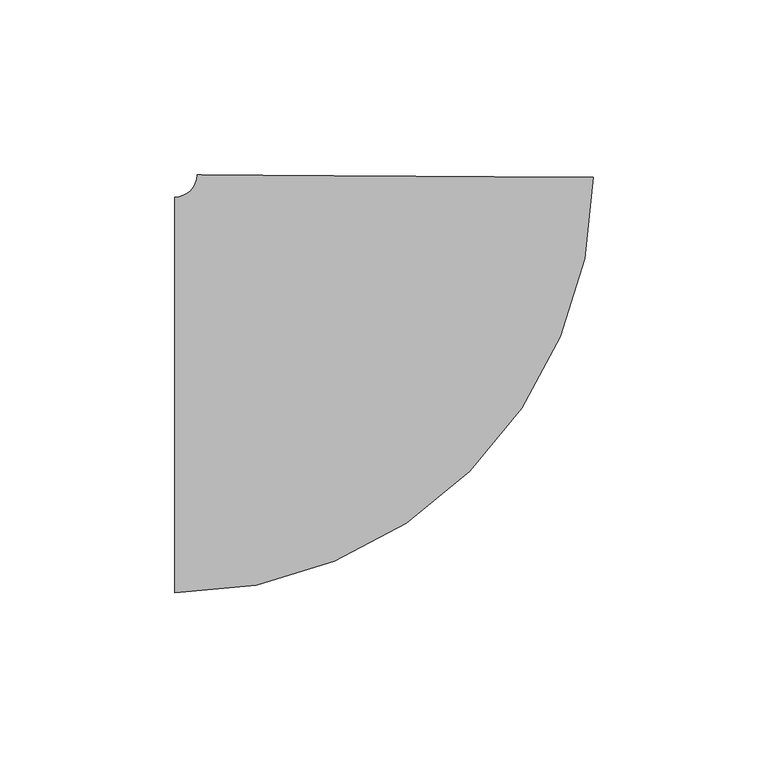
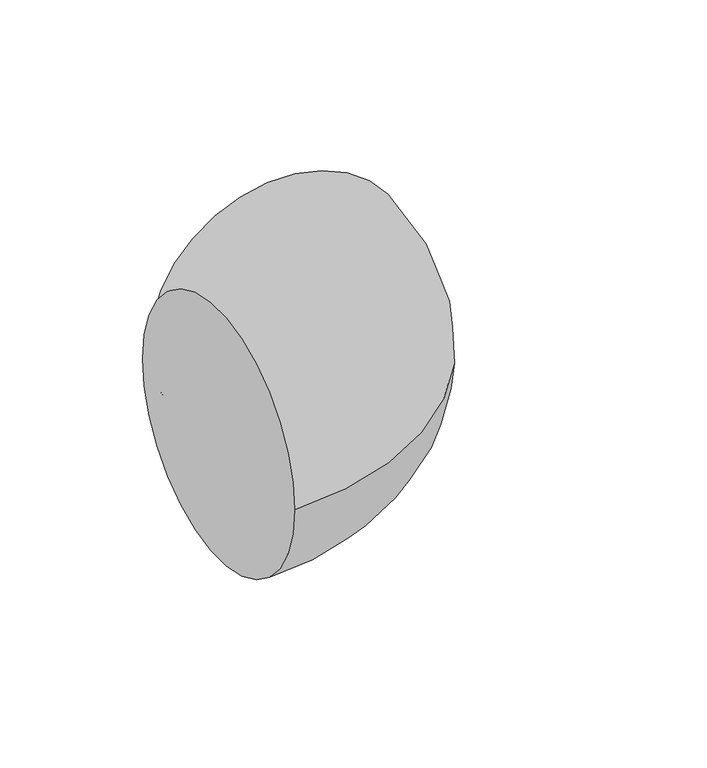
"""IFC4 building model written with IfcOpenShell, lengths in millimetres: pipe fitting geometry, M_Codo - Genérico : Estándar."""

from ifc_helpers import new_model, si_unit, point, frame, origin, place, context, project, spatial, circle_curve, ellipse_curve, trimmed, source, transform, mapped, element, save
from ifc_brep_helpers import plane_surface, revolved_surface, advanced_brep


def pipe_fitting_1794739a(model_context):
    return source(origin(), model_context, "Body", "AdvancedBrep", [
        advanced_brep(
        [(-62.5434282, -56.5875, 0.0), (-62.5434282, 56.5875, 0.0), (56.9792141, 62.1867729, 0.0), (-56.1935535, 62.8976162, 0.0)],
        [
            (0, 1, circle_curve(frame((-62.5434282, 0.0, 0.0), z_axis=(-1.0, 0.0, 0.0), x_axis=(0.0, 1.0, 0.0)), 56.5875)),
            (1, 0, circle_curve(frame((-62.5434282, 0.0, 0.0), z_axis=(-1.0, 0.0, 0.0), x_axis=(0.0, 1.0, 0.0)), 56.5875)),
            (2, 3, circle_curve(frame((0.3928303, 62.5421946, 0.0), z_axis=(0.00628092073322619, 0.9999802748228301, 0.0), x_axis=(-0.9999802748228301, 0.00628092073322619, 0.0)), 56.5875)),
            (3, 2, circle_curve(frame((0.3928303, 62.5421946, 0.0), z_axis=(0.00628092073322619, 0.9999802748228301, 0.0), x_axis=(-0.9999802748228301, 0.00628092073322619, 0.0)), 56.5875)),
            (3, 1, circle_curve(frame((-62.5434282, 62.9375, 0.0), z_axis=(0.0, 0.0, -1.0), x_axis=(0.0, -1.0, 0.0)), 6.35)),
            (0, 2, circle_curve(frame((-62.5434282, 62.9375, 0.0), z_axis=(0.0, 0.0, 1.0), x_axis=(0.0, -1.0, 0.0)), 119.525)),
        ],
        [
            plane_surface(frame((-62.5434282, 0.0, 0.0), z_axis=(-1.0, 0.0, 0.0), x_axis=(0.0, 0.0, 1.0))),
            plane_surface(frame((0.3928303, 62.5421946, 0.0), z_axis=(0.006280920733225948, 0.9999802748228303, 0.0), x_axis=(0.0, 0.0, 1.0))),
            revolved_surface(trimmed(ellipse_curve(frame((-62.5434282, 0.0, 0.0), z_axis=(-1.0, 0.0, 0.0), x_axis=(0.0, 1.0, 0.0)), 56.5875, 56.5875), [point((-62.5434282, -56.5875, 0.0))], [point((-62.5434282, 56.5875, 0.0))], True, "CARTESIAN"), (-62.5434282, 62.9375, 0.0), (0.0, 0.0, 1.0)),
            revolved_surface(trimmed(ellipse_curve(frame((-62.5434282, 0.0, 0.0), z_axis=(-1.0, 0.0, 0.0), x_axis=(0.0, 1.0, 0.0)), 56.5875, 56.5875), [point((-62.5434282, 56.5875, 0.0))], [point((-62.5434282, -56.5875, 0.0))], True, "CARTESIAN"), (-62.5434282, 62.9375, 0.0), (0.0, 0.0, 1.0)),
        ],
        [
            (0, [[1, 2]]),
            (1, [[3, 4]]),
            (2, [[5, -1, 6, -4]]),
            (3, [[-6, -2, -5, -3]]),
        ],
    ),
    ])


if __name__ == "__main__":
    model = new_model("IFC4")
    model_context = context("Model", 3, world=origin())
    ifc_project = project(units=[si_unit("LENGTHUNIT", "METRE", prefix="MILLI")], contexts=[model_context])
    site = spatial("IfcSite", under=ifc_project)
    building = spatial("IfcBuilding", under=site)
    placement = place(None, origin())
    pipe_fitting_shape = pipe_fitting_1794739a(model_context)
    element("IfcPipeFitting", 1, ObjectType="M_Codo - Genérico : Estándar", at=placement, inside=building, context=model_context, shape_type="MappedRepresentation", body=[
        mapped(pipe_fitting_shape, transform((0.0, 0.0, 0.0), x_axis=(1.0, 0.0, 0.0), y_axis=(0.0, 1.0, 0.0), z_axis=(0.0, 0.0, 1.0))),
    ])
    save(model, "model.ifc")
